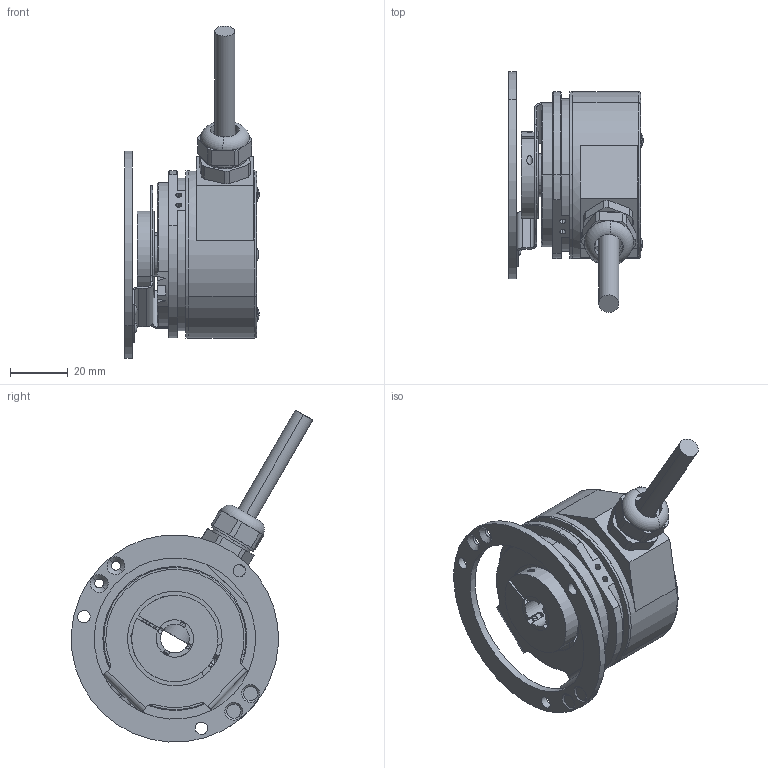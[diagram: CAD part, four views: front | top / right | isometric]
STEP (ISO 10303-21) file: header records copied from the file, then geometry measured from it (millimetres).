
FILE_DESCRIPTION (( 'STEP AP214' ), '1' );
FILE_NAME ('5825.35X1.XXXX.STEP', '2011-02-25T11:28:44', ( 'admin' ), ( 'Fritz Kübler GmbH' ), 'SwSTEP 2.0', 'SolidWorks 2009', '' );
FILE_SCHEMA (( 'AUTOMOTIVE_DESIGN' ));
Length unit declared in the file: millimetre
Products named in the file (1): 5825.35X1.XXXX
Bounding box: 46.58 x 83.76 x 115.27 mm (x, y, z)
Volume: 60405.8 mm3; surface area: 45642.5 mm2
Topology: 21 solids, 21 shells, 611 faces, 1457 edges, 907 vertices
Faces by surface type: cylinder 231, plane 222, cone 108, torus 36, sphere 14
Entity records: 24984 total; most frequent: CARTESIAN_POINT 3456, DIRECTION 3267, ORIENTED_EDGE 2858, EDGE_CURVE 1429, AXIS2_PLACEMENT_3D 1286, VERTEX_POINT 907, EDGE_LOOP 714, VECTOR 695
